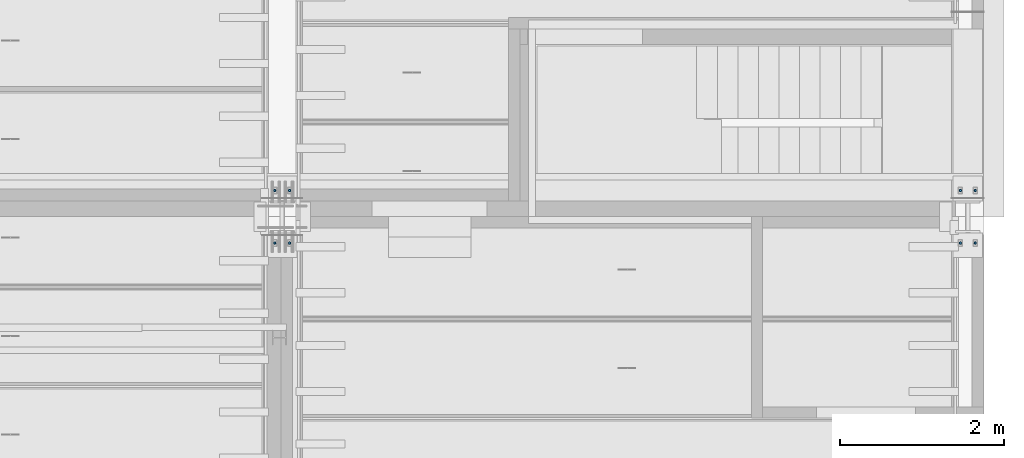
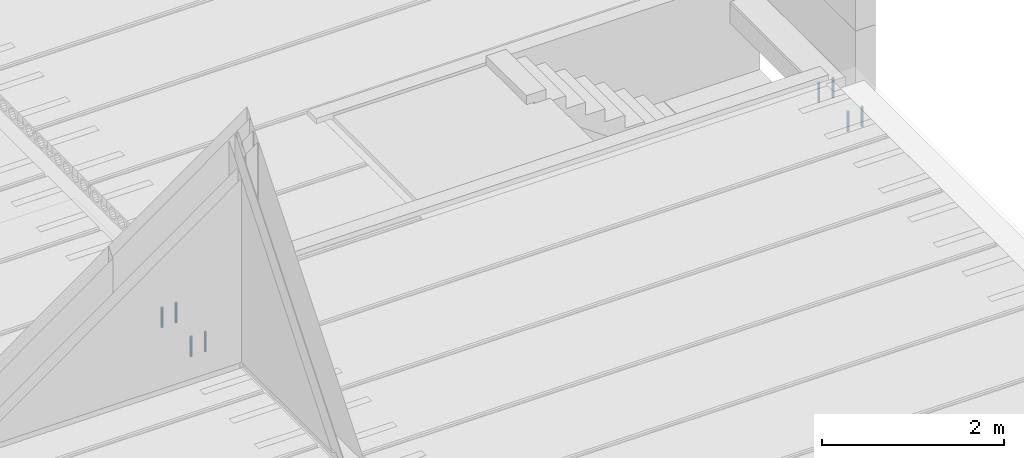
# One storey, part 206 of 230: 8 beams.
"""IFC4X3_ADD2 building model written with IfcOpenShell, lengths in millimetres."""

import ifcopenshell
import ifcopenshell.guid

model = None  # the IFC model being written
_history = None  # IfcOwnerHistory: only IFC2X3 demands one
_inside = {}  # id of a spatial element -> (the spatial element, [elements in it])
_under = {}  # id of a project, library or spatial element -> (it, [spatial elements below it])
_declared = {}  # id of a project -> (the project, [libraries it declares])
_typed = {}  # id of a type object -> (the type object, [elements of that type])
_made_of = {}  # id of a material, layer set ... -> (it, [elements and type objects made of it])


def new_model(schema):
    """Start an empty IFC model of exactly this schema.

    Asked for "IFC4X3", IfcOpenShell would pick the latest addendum, in which some entities
    have other attributes; the version numbers below select the first issue.
    IFC2X3 requires an IfcOwnerHistory on every rooted entity: one is made here for all.
    """
    global model, _history
    if schema == "IFC4X3":
        model = ifcopenshell.file(schema_version=(4, 3, 0, 0))
    else:
        model = ifcopenshell.file(schema=schema)
    _inside.clear()
    _under.clear()
    _declared.clear()
    _typed.clear()
    _made_of.clear()
    _history = None
    if model.schema == "IFC2X3":
        org = make("IfcOrganization", Name="unknown")
        user = make(
            "IfcPersonAndOrganization",
            ThePerson=make("IfcPerson", FamilyName="unknown"),
            TheOrganization=org,
        )
        app = make(
            "IfcApplication",
            ApplicationDeveloper=org,
            Version="unknown",
            ApplicationFullName="unknown",
            ApplicationIdentifier="unknown",
        )
        _history = make(
            "IfcOwnerHistory",
            OwningUser=user,
            OwningApplication=app,
            ChangeAction="ADDED",
            CreationDate=0,
        )
    return model


def make(cls, **values):
    """One entity of the class cls with the attributes given. An attribute that is None is left unset."""
    return model.create_entity(
        cls, **{name: value for name, value in values.items() if value is not None}
    )


def rooted(cls, **values):
    """An entity with a GlobalId (a new one), such as an element, a storey or a relation."""
    return make(cls, GlobalId=ifcopenshell.guid.new(), OwnerHistory=_history, **values)


def si_unit(unit_type, name, prefix=None):
    """IfcSIUnit, for example si_unit("LENGTHUNIT", "METRE", prefix="MILLI")."""
    return make("IfcSIUnit", UnitType=unit_type, Prefix=prefix, Name=name)


def assignment(units):
    """IfcUnitAssignment: the units of a project."""
    return None if units is None else make("IfcUnitAssignment", Units=units)


def point(xyz):
    """IfcCartesianPoint."""
    return None if xyz is None else make("IfcCartesianPoint", Coordinates=xyz)


def direction(xyz):
    """IfcDirection."""
    return None if xyz is None else make("IfcDirection", DirectionRatios=xyz)


def frame(location, z_axis=None, x_axis=None):
    """IfcAxis2Placement3D, a coordinate frame: its origin and axes. An axis left out is left unset."""
    return make(
        "IfcAxis2Placement3D",
        Location=point(location),
        Axis=direction(z_axis),
        RefDirection=direction(x_axis),
    )


def origin_with_axes():
    """The frame at (0, 0, 0) with the z axis (0, 0, 1) and the x axis (1, 0, 0) written out."""
    return frame((0.0, 0.0, 0.0), z_axis=(0.0, 0.0, 1.0), x_axis=(1.0, 0.0, 0.0))


def place(relative_to, where):
    """IfcLocalPlacement: puts the frame where relative to a parent placement (None: the world)."""
    return make(
        "IfcLocalPlacement", PlacementRelTo=relative_to, RelativePlacement=where
    )


def context(
    kind, dimensions, precision=None, world=None, true_north=None, identifier=None
):
    """IfcGeometricRepresentationContext, for example the 3D "Model" context."""
    return make(
        "IfcGeometricRepresentationContext",
        ContextIdentifier=identifier,
        ContextType=kind,
        CoordinateSpaceDimension=dimensions,
        Precision=precision,
        WorldCoordinateSystem=world,
        TrueNorth=true_north,
    )


def subcontext(parent, identifier, kind, view, scale=None):
    """IfcGeometricRepresentationSubContext, for example "Body" below "Model"."""
    return make(
        "IfcGeometricRepresentationSubContext",
        ContextIdentifier=identifier,
        ContextType=kind,
        ParentContext=parent,
        TargetScale=scale,
        TargetView=view,
    )


def project(units=None, contexts=None):
    """IfcProject with its units and contexts."""
    return rooted(
        "IfcProject",
        Name="project",
        RepresentationContexts=contexts,
        UnitsInContext=assignment(units),
    )


def spatial(cls, under=None, at=None, **own):
    """A site, building, storey or space (cls), placed at a placement, below another one or the project."""
    s = rooted(cls, ObjectPlacement=at, **own)
    if under is not None:
        _under.setdefault(under.id(), (under, []))[1].append(s)
    return s


def point_list(points):
    """IfcCartesianPointList2D or 3D."""
    cls = (
        "IfcCartesianPointList2D" if len(points[0]) == 2 else "IfcCartesianPointList3D"
    )
    return make(cls, CoordList=points)


def polygons(points, faces, closed=None, point_numbers=None):
    """IfcPolygonalFaceSet: a face is its outer loop, then its inner loops; points numbered from 1."""
    made = []
    for loops in faces:
        if len(loops) == 1:
            made.append(make("IfcIndexedPolygonalFace", CoordIndex=loops[0]))
        else:
            made.append(
                make(
                    "IfcIndexedPolygonalFaceWithVoids",
                    CoordIndex=loops[0],
                    InnerCoordIndices=loops[1:],
                )
            )
    return make(
        "IfcPolygonalFaceSet",
        Coordinates=point_list(points),
        Closed=closed,
        Faces=made,
        PnIndex=point_numbers,
    )


def shape(context_of_items, identifier, shape_type, items):
    """IfcShapeRepresentation: the items that make up one representation, for example the "Body"."""
    return make(
        "IfcShapeRepresentation",
        ContextOfItems=context_of_items,
        RepresentationIdentifier=identifier,
        RepresentationType=shape_type,
        Items=items,
    )


def made_of(thing, what):
    """Note that an element or type object is made of a material, layer set ...; save() writes the relation."""
    if what is not None:
        _made_of.setdefault(what.id(), (what, []))[1].append(thing)
    return thing


def element(
    cls,
    number,
    at=None,
    inside=None,
    cuts=None,
    type_object=None,
    material=None,
    context=None,
    identifier="Body",
    shape_type=None,
    held_by="IfcProductDefinitionShape",
    body=None,
    shapes=None,
    **own,
):
    """One element of the class cls, such as IfcWall. Its Tag is "e" and its number.

    at: its placement. inside: the storey or other place that contains it. cuts: it is an
    opening in that element (IfcRelVoidsElement). A single representation is given by context,
    identifier, shape_type and body (its items); several are given by shapes. held_by: the class
    of the entity that holds the representations. save() writes the other relations.
    """
    e = rooted(cls, Tag="e%d" % number, ObjectPlacement=at, **own)
    if body is not None:
        shapes = [shape(context, identifier, shape_type, body)]
    if shapes is not None:
        e.Representation = make(held_by, Representations=shapes)
    if inside is not None:
        _inside.setdefault(inside.id(), (inside, []))[1].append(e)
    if cuts is not None:
        rooted(
            "IfcRelVoidsElement", RelatingBuildingElement=cuts, RelatedOpeningElement=e
        )
    if type_object is not None:
        _typed.setdefault(type_object.id(), (type_object, []))[1].append(e)
    return made_of(e, material)


def aggregate(whole, parts):
    """IfcRelAggregates: a whole, such as a stair, and the parts it consists of."""
    return rooted("IfcRelAggregates", RelatingObject=whole, RelatedObjects=parts)


def save(model, path):
    """Write the relations noted so far, then the file.

    IfcRelAggregates (storeys below a building ...), IfcRelContainedInSpatialStructure (elements
    in a storey), IfcRelDefinesByType, IfcRelAssociatesMaterial and IfcRelDeclares: one each for
    every whole, place, type object, material and project.
    """
    for whole, parts in _under.values():
        aggregate(whole, parts)
    for where, things in _inside.values():
        rooted(
            "IfcRelContainedInSpatialStructure",
            RelatedElements=things,
            RelatingStructure=where,
        )
    for kind, things in _typed.values():
        rooted("IfcRelDefinesByType", RelatedObjects=things, RelatingType=kind)
    for what, things in _made_of.values():
        rooted("IfcRelAssociatesMaterial", RelatedObjects=things, RelatingMaterial=what)
    for by, libraries in _declared.values():
        rooted("IfcRelDeclares", RelatingContext=by, RelatedDefinitions=libraries)
    model.write(path)


model = new_model("IFC4X3_ADD2")

# Units and contexts
model_context = context("Model", 3, precision=1e-05, world=origin_with_axes(), true_north=direction((0.0, 1.0)))
body_context = subcontext(model_context, "Body", "Model", "MODEL_VIEW")
ifc_project = project(units=[si_unit("LENGTHUNIT", "METRE", prefix="MILLI"), si_unit("AREAUNIT", "SQUARE_METRE"), si_unit("VOLUMEUNIT", "CUBIC_METRE"), si_unit("PLANEANGLEUNIT", "RADIAN"), si_unit("TIMEUNIT", "SECOND"), si_unit("MASSUNIT", "GRAM")], contexts=[model_context])

# Site, building, storey
site_placement = place(None, origin_with_axes())
site = spatial("IfcSite", under=ifc_project, at=site_placement, Name="Site", CompositionType="ELEMENT")
building_placement = place(site_placement, origin_with_axes())
building = spatial("IfcBuilding", under=site, at=building_placement, Name="IFC Building Story")
storey_placement = place(building_placement, origin_with_axes())
storey = spatial("IfcBuildingStorey", under=building, at=storey_placement, Name="ETAGE 00 (0)", Elevation=0.0)

# Beams
beam_1_placement = place(storey_placement, origin_with_axes())
element("IfcBeam", 1, at=beam_1_placement, inside=storey, Name="SD11", ObjectType="D30", context=body_context, shape_type="Tessellation", body=[
    polygons([(48206.1886362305, 18124.9996109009, 3960.0), (48206.1886362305, 18124.9996109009, 3690.0), (48208.19825517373, 18117.4996109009, 3690.0), (48208.19825517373, 18117.4996109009, 3960.0), (48213.6886362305, 18112.00922984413, 3690.0), (48213.6886362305, 18112.00922984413, 3960.0), (48221.18863623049, 18109.9996109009, 3690.0), (48221.18863623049, 18109.9996109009, 3960.0), (48228.68863623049, 18112.00922984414, 3690.0), (48228.68863623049, 18112.00922984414, 3960.0), (48234.17901728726, 18117.49961090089, 3690.0), (48234.17901728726, 18117.49961090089, 3960.0), (48236.1886362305, 18124.9996109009, 3690.0), (48236.1886362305, 18124.9996109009, 3960.0), (48234.17901728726, 18132.4996109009, 3690.0), (48234.17901728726, 18132.4996109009, 3960.0), (48228.68863623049, 18137.98999195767, 3690.0), (48228.68863623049, 18137.98999195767, 3960.0), (48221.18863623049, 18139.9996109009, 3690.0), (48221.18863623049, 18139.9996109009, 3960.0), (48213.6886362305, 18137.98999195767, 3690.0), (48213.6886362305, 18137.98999195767, 3960.0), (48208.19825517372, 18132.4996109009, 3690.0), (48208.19825517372, 18132.4996109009, 3960.0)], [[[1, 2, 3, 4]], [[4, 3, 5, 6]], [[6, 5, 7, 8]], [[8, 7, 9, 10]], [[10, 9, 11, 12]], [[12, 11, 13, 14]], [[14, 13, 15, 16]], [[16, 15, 17, 18]], [[18, 17, 19, 20]], [[20, 19, 21, 22]], [[22, 21, 23, 24]], [[24, 23, 2, 1]], [[4, 6, 8]], [[4, 8, 10]], [[4, 10, 12]], [[4, 12, 14]], [[4, 14, 16]], [[4, 16, 18]], [[4, 18, 20]], [[4, 20, 22]], [[4, 22, 24]], [[4, 24, 1]], [[2, 23, 21]], [[2, 21, 19]], [[2, 19, 17]], [[2, 17, 15]], [[2, 15, 13]], [[2, 13, 11]], [[2, 11, 9]], [[2, 9, 7]], [[2, 7, 5]], [[2, 5, 3]]]),
])
beam_2_placement = place(storey_placement, origin_with_axes())
element("IfcBeam", 2, at=beam_2_placement, inside=storey, Name="SD11", ObjectType="D30", context=body_context, shape_type="Tessellation", body=[
    polygons([(48386.1886362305, 18124.9996109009, 3960.0), (48386.1886362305, 18124.9996109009, 3690.0), (48388.19825517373, 18117.4996109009, 3690.0), (48388.19825517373, 18117.4996109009, 3960.0), (48393.6886362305, 18112.00922984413, 3690.0), (48393.6886362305, 18112.00922984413, 3960.0), (48401.18863623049, 18109.9996109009, 3690.0), (48401.18863623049, 18109.9996109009, 3960.0), (48408.68863623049, 18112.00922984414, 3690.0), (48408.68863623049, 18112.00922984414, 3960.0), (48414.17901728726, 18117.49961090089, 3690.0), (48414.17901728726, 18117.49961090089, 3960.0), (48416.1886362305, 18124.9996109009, 3690.0), (48416.1886362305, 18124.9996109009, 3960.0), (48414.17901728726, 18132.4996109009, 3690.0), (48414.17901728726, 18132.4996109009, 3960.0), (48408.68863623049, 18137.98999195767, 3690.0), (48408.68863623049, 18137.98999195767, 3960.0), (48401.18863623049, 18139.9996109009, 3690.0), (48401.18863623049, 18139.9996109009, 3960.0), (48393.6886362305, 18137.98999195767, 3690.0), (48393.6886362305, 18137.98999195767, 3960.0), (48388.19825517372, 18132.4996109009, 3690.0), (48388.19825517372, 18132.4996109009, 3960.0)], [[[1, 2, 3, 4]], [[4, 3, 5, 6]], [[6, 5, 7, 8]], [[8, 7, 9, 10]], [[10, 9, 11, 12]], [[12, 11, 13, 14]], [[14, 13, 15, 16]], [[16, 15, 17, 18]], [[18, 17, 19, 20]], [[20, 19, 21, 22]], [[22, 21, 23, 24]], [[24, 23, 2, 1]], [[4, 6, 8]], [[4, 8, 10]], [[4, 10, 12]], [[4, 12, 14]], [[4, 14, 16]], [[4, 16, 18]], [[4, 18, 20]], [[4, 20, 22]], [[4, 22, 24]], [[4, 24, 1]], [[2, 23, 21]], [[2, 21, 19]], [[2, 19, 17]], [[2, 17, 15]], [[2, 15, 13]], [[2, 13, 11]], [[2, 11, 9]], [[2, 9, 7]], [[2, 7, 5]], [[2, 5, 3]]]),
])
beam_3_placement = place(storey_placement, origin_with_axes())
element("IfcBeam", 3, at=beam_3_placement, inside=storey, Name="SD11", ObjectType="D30", context=body_context, shape_type="Tessellation", body=[
    polygons([(48386.1886362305, 17484.9996109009, 3960.0), (48386.1886362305, 17484.9996109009, 3690.0), (48388.19825517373, 17477.49961090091, 3690.0), (48388.19825517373, 17477.49961090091, 3960.0), (48393.6886362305, 17472.00922984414, 3690.0), (48393.6886362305, 17472.00922984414, 3960.0), (48401.18863623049, 17469.9996109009, 3690.0), (48401.18863623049, 17469.9996109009, 3960.0), (48408.68863623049, 17472.00922984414, 3690.0), (48408.68863623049, 17472.00922984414, 3960.0), (48414.17901728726, 17477.4996109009, 3690.0), (48414.17901728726, 17477.4996109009, 3960.0), (48416.1886362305, 17484.9996109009, 3690.0), (48416.1886362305, 17484.9996109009, 3960.0), (48414.17901728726, 17492.49961090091, 3690.0), (48414.17901728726, 17492.49961090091, 3960.0), (48408.68863623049, 17497.98999195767, 3690.0), (48408.68863623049, 17497.98999195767, 3960.0), (48401.18863623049, 17499.9996109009, 3690.0), (48401.18863623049, 17499.9996109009, 3960.0), (48393.6886362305, 17497.98999195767, 3690.0), (48393.6886362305, 17497.98999195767, 3960.0), (48388.19825517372, 17492.4996109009, 3690.0), (48388.19825517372, 17492.4996109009, 3960.0)], [[[1, 2, 3, 4]], [[4, 3, 5, 6]], [[6, 5, 7, 8]], [[8, 7, 9, 10]], [[10, 9, 11, 12]], [[12, 11, 13, 14]], [[14, 13, 15, 16]], [[16, 15, 17, 18]], [[18, 17, 19, 20]], [[20, 19, 21, 22]], [[22, 21, 23, 24]], [[24, 23, 2, 1]], [[4, 6, 8]], [[4, 8, 10]], [[4, 10, 12]], [[4, 12, 14]], [[4, 14, 16]], [[4, 16, 18]], [[4, 18, 20]], [[4, 20, 22]], [[4, 22, 24]], [[4, 24, 1]], [[2, 23, 21]], [[2, 21, 19]], [[2, 19, 17]], [[2, 17, 15]], [[2, 15, 13]], [[2, 13, 11]], [[2, 11, 9]], [[2, 9, 7]], [[2, 7, 5]], [[2, 5, 3]]]),
])
beam_4_placement = place(storey_placement, origin_with_axes())
element("IfcBeam", 4, at=beam_4_placement, inside=storey, Name="SD11", ObjectType="D30", context=body_context, shape_type="Tessellation", body=[
    polygons([(48206.1886362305, 17484.9996109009, 3960.0), (48206.1886362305, 17484.9996109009, 3690.0), (48208.19825517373, 17477.49961090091, 3690.0), (48208.19825517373, 17477.49961090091, 3960.0), (48213.6886362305, 17472.00922984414, 3690.0), (48213.6886362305, 17472.00922984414, 3960.0), (48221.18863623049, 17469.9996109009, 3690.0), (48221.18863623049, 17469.9996109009, 3960.0), (48228.68863623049, 17472.00922984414, 3690.0), (48228.68863623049, 17472.00922984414, 3960.0), (48234.17901728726, 17477.4996109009, 3690.0), (48234.17901728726, 17477.4996109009, 3960.0), (48236.1886362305, 17484.9996109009, 3690.0), (48236.1886362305, 17484.9996109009, 3960.0), (48234.17901728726, 17492.49961090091, 3690.0), (48234.17901728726, 17492.49961090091, 3960.0), (48228.68863623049, 17497.98999195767, 3690.0), (48228.68863623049, 17497.98999195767, 3960.0), (48221.18863623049, 17499.9996109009, 3690.0), (48221.18863623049, 17499.9996109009, 3960.0), (48213.6886362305, 17497.98999195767, 3690.0), (48213.6886362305, 17497.98999195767, 3960.0), (48208.19825517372, 17492.4996109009, 3690.0), (48208.19825517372, 17492.4996109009, 3960.0)], [[[1, 2, 3, 4]], [[4, 3, 5, 6]], [[6, 5, 7, 8]], [[8, 7, 9, 10]], [[10, 9, 11, 12]], [[12, 11, 13, 14]], [[14, 13, 15, 16]], [[16, 15, 17, 18]], [[18, 17, 19, 20]], [[20, 19, 21, 22]], [[22, 21, 23, 24]], [[24, 23, 2, 1]], [[4, 6, 8]], [[4, 8, 10]], [[4, 10, 12]], [[4, 12, 14]], [[4, 14, 16]], [[4, 16, 18]], [[4, 18, 20]], [[4, 20, 22]], [[4, 22, 24]], [[4, 24, 1]], [[2, 23, 21]], [[2, 21, 19]], [[2, 19, 17]], [[2, 17, 15]], [[2, 15, 13]], [[2, 13, 11]], [[2, 11, 9]], [[2, 9, 7]], [[2, 7, 5]], [[2, 5, 3]]]),
])
beam_5_placement = place(storey_placement, origin_with_axes())
element("IfcBeam", 5, at=beam_5_placement, inside=storey, Name="SD11", ObjectType="D30", context=body_context, shape_type="Tessellation", body=[
    polygons([(39861.189, 18125.0, 3860.0), (39861.189, 18125.0, 3590.0), (39863.19861894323, 18117.5, 3590.0), (39863.19861894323, 18117.5, 3860.0), (39868.689, 18112.00961894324, 3590.0), (39868.689, 18112.00961894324, 3860.0), (39876.189, 18110.0, 3590.0), (39876.189, 18110.0, 3860.0), (39883.689, 18112.00961894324, 3590.0), (39883.689, 18112.00961894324, 3860.0), (39889.17938105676, 18117.5, 3590.0), (39889.17938105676, 18117.5, 3860.0), (39891.189, 18125.0, 3590.0), (39891.189, 18125.0, 3860.0), (39889.17938105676, 18132.5, 3590.0), (39889.17938105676, 18132.5, 3860.0), (39883.689, 18137.99038105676, 3590.0), (39883.689, 18137.99038105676, 3860.0), (39876.189, 18140.0, 3590.0), (39876.189, 18140.0, 3860.0), (39868.68899999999, 18137.99038105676, 3590.0), (39868.68899999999, 18137.99038105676, 3860.0), (39863.19861894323, 18132.5, 3590.0), (39863.19861894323, 18132.5, 3860.0)], [[[1, 2, 3, 4]], [[4, 3, 5, 6]], [[6, 5, 7, 8]], [[8, 7, 9, 10]], [[10, 9, 11, 12]], [[12, 11, 13, 14]], [[14, 13, 15, 16]], [[16, 15, 17, 18]], [[18, 17, 19, 20]], [[20, 19, 21, 22]], [[22, 21, 23, 24]], [[24, 23, 2, 1]], [[4, 6, 8]], [[4, 8, 10]], [[4, 10, 12]], [[4, 12, 14]], [[4, 14, 16]], [[4, 16, 18]], [[4, 18, 20]], [[4, 20, 22]], [[4, 22, 24]], [[4, 24, 1]], [[2, 23, 21]], [[2, 21, 19]], [[2, 19, 17]], [[2, 17, 15]], [[2, 15, 13]], [[2, 13, 11]], [[2, 11, 9]], [[2, 9, 7]], [[2, 7, 5]], [[2, 5, 3]]]),
])
beam_6_placement = place(storey_placement, origin_with_axes())
element("IfcBeam", 6, at=beam_6_placement, inside=storey, Name="SD11", ObjectType="D30", context=body_context, shape_type="Tessellation", body=[
    polygons([(40041.189, 18125.0, 3860.0), (40041.189, 18125.0, 3590.0), (40043.19861894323, 18117.5, 3590.0), (40043.19861894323, 18117.5, 3860.0), (40048.689, 18112.00961894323, 3590.0), (40048.689, 18112.00961894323, 3860.0), (40056.189, 18110.0, 3590.0), (40056.189, 18110.0, 3860.0), (40063.689, 18112.00961894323, 3590.0), (40063.689, 18112.00961894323, 3860.0), (40069.17938105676, 18117.5, 3590.0), (40069.17938105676, 18117.5, 3860.0), (40071.189, 18125.0, 3590.0), (40071.189, 18125.0, 3860.0), (40069.17938105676, 18132.5, 3590.0), (40069.17938105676, 18132.5, 3860.0), (40063.689, 18137.99038105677, 3590.0), (40063.689, 18137.99038105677, 3860.0), (40056.189, 18140.0, 3590.0), (40056.189, 18140.0, 3860.0), (40048.689, 18137.99038105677, 3590.0), (40048.689, 18137.99038105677, 3860.0), (40043.19861894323, 18132.5, 3590.0), (40043.19861894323, 18132.5, 3860.0)], [[[1, 2, 3, 4]], [[4, 3, 5, 6]], [[6, 5, 7, 8]], [[8, 7, 9, 10]], [[10, 9, 11, 12]], [[12, 11, 13, 14]], [[14, 13, 15, 16]], [[16, 15, 17, 18]], [[18, 17, 19, 20]], [[20, 19, 21, 22]], [[22, 21, 23, 24]], [[24, 23, 2, 1]], [[4, 6, 8]], [[4, 8, 10]], [[4, 10, 12]], [[4, 12, 14]], [[4, 14, 16]], [[4, 16, 18]], [[4, 18, 20]], [[4, 20, 22]], [[4, 22, 24]], [[4, 24, 1]], [[2, 23, 21]], [[2, 21, 19]], [[2, 19, 17]], [[2, 17, 15]], [[2, 15, 13]], [[2, 13, 11]], [[2, 11, 9]], [[2, 9, 7]], [[2, 7, 5]], [[2, 5, 3]]]),
])
beam_7_placement = place(storey_placement, origin_with_axes())
element("IfcBeam", 7, at=beam_7_placement, inside=storey, Name="SD11", ObjectType="D30", context=body_context, shape_type="Tessellation", body=[
    polygons([(40041.189, 17485.0, 3860.0), (40041.189, 17485.0, 3590.0), (40043.19861894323, 17477.5, 3590.0), (40043.19861894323, 17477.5, 3860.0), (40048.689, 17472.00961894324, 3590.0), (40048.689, 17472.00961894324, 3860.0), (40056.189, 17470.0, 3590.0), (40056.189, 17470.0, 3860.0), (40063.689, 17472.00961894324, 3590.0), (40063.689, 17472.00961894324, 3860.0), (40069.17938105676, 17477.5, 3590.0), (40069.17938105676, 17477.5, 3860.0), (40071.189, 17485.0, 3590.0), (40071.189, 17485.0, 3860.0), (40069.17938105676, 17492.5, 3590.0), (40069.17938105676, 17492.5, 3860.0), (40063.689, 17497.99038105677, 3590.0), (40063.689, 17497.99038105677, 3860.0), (40056.189, 17500.0, 3590.0), (40056.189, 17500.0, 3860.0), (40048.689, 17497.99038105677, 3590.0), (40048.689, 17497.99038105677, 3860.0), (40043.19861894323, 17492.50000000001, 3590.0), (40043.19861894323, 17492.50000000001, 3860.0)], [[[1, 2, 3, 4]], [[4, 3, 5, 6]], [[6, 5, 7, 8]], [[8, 7, 9, 10]], [[10, 9, 11, 12]], [[12, 11, 13, 14]], [[14, 13, 15, 16]], [[16, 15, 17, 18]], [[18, 17, 19, 20]], [[20, 19, 21, 22]], [[22, 21, 23, 24]], [[24, 23, 2, 1]], [[4, 6, 8]], [[4, 8, 10]], [[4, 10, 12]], [[4, 12, 14]], [[4, 14, 16]], [[4, 16, 18]], [[4, 18, 20]], [[4, 20, 22]], [[4, 22, 24]], [[4, 24, 1]], [[2, 23, 21]], [[2, 21, 19]], [[2, 19, 17]], [[2, 17, 15]], [[2, 15, 13]], [[2, 13, 11]], [[2, 11, 9]], [[2, 9, 7]], [[2, 7, 5]], [[2, 5, 3]]]),
])
beam_8_placement = place(storey_placement, origin_with_axes())
element("IfcBeam", 8, at=beam_8_placement, inside=storey, Name="SD11", ObjectType="D30", context=body_context, shape_type="Tessellation", body=[
    polygons([(39861.189, 17485.0, 3860.0), (39861.189, 17485.0, 3590.0), (39863.19861894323, 17477.5, 3590.0), (39863.19861894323, 17477.5, 3860.0), (39868.689, 17472.00961894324, 3590.0), (39868.689, 17472.00961894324, 3860.0), (39876.189, 17470.0, 3590.0), (39876.189, 17470.0, 3860.0), (39883.689, 17472.00961894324, 3590.0), (39883.689, 17472.00961894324, 3860.0), (39889.17938105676, 17477.5, 3590.0), (39889.17938105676, 17477.5, 3860.0), (39891.189, 17485.0, 3590.0), (39891.189, 17485.0, 3860.0), (39889.17938105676, 17492.5, 3590.0), (39889.17938105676, 17492.5, 3860.0), (39883.689, 17497.99038105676, 3590.0), (39883.689, 17497.99038105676, 3860.0), (39876.189, 17500.0, 3590.0), (39876.189, 17500.0, 3860.0), (39868.68899999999, 17497.99038105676, 3590.0), (39868.68899999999, 17497.99038105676, 3860.0), (39863.19861894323, 17492.5, 3590.0), (39863.19861894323, 17492.5, 3860.0)], [[[1, 2, 3, 4]], [[4, 3, 5, 6]], [[6, 5, 7, 8]], [[8, 7, 9, 10]], [[10, 9, 11, 12]], [[12, 11, 13, 14]], [[14, 13, 15, 16]], [[16, 15, 17, 18]], [[18, 17, 19, 20]], [[20, 19, 21, 22]], [[22, 21, 23, 24]], [[24, 23, 2, 1]], [[4, 6, 8]], [[4, 8, 10]], [[4, 10, 12]], [[4, 12, 14]], [[4, 14, 16]], [[4, 16, 18]], [[4, 18, 20]], [[4, 20, 22]], [[4, 22, 24]], [[4, 24, 1]], [[2, 23, 21]], [[2, 21, 19]], [[2, 19, 17]], [[2, 17, 15]], [[2, 15, 13]], [[2, 13, 11]], [[2, 11, 9]], [[2, 9, 7]], [[2, 7, 5]], [[2, 5, 3]]]),
])

save(model, "model.ifc")
